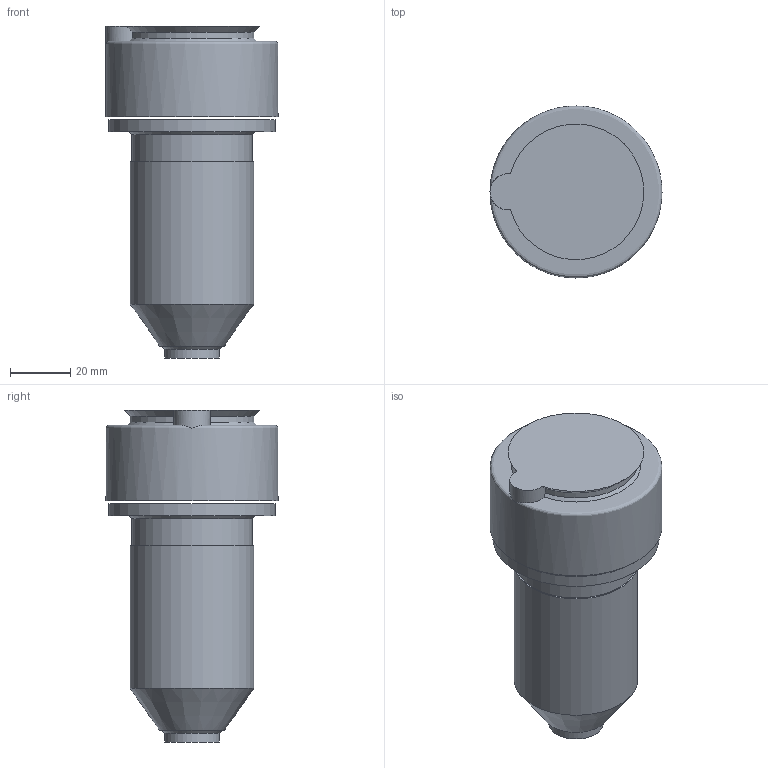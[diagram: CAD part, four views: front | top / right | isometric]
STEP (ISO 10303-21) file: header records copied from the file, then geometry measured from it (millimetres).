
FILE_DESCRIPTION(('STEP AP214'),'1');
FILE_NAME('SEDE IPS1000-C.stp','2018-06-13T12:18:43',(' '),(' '),'Spatial InterOp 3D',' ',' ');
FILE_SCHEMA(('AUTOMOTIVE_DESIGN { 1 0 10303 214 1 1 1 1 }'));
Length unit declared in the file: millimetre
Products named in the file (1): 1
Bounding box: 57 x 57 x 110 mm (x, y, z)
Volume: 167548.7 mm3; surface area: 24236 mm2
Topology: 2 solids, 2 shells, 19 faces, 34 edges, 22 vertices
Faces by surface type: plane 7, cylinder 6, cone 5, revolution 1
Full cylindrical faces by diameter (mm): 18 x1, 40 x1, 41 x1, 55 x1
Entity records: 669 total; most frequent: CARTESIAN_POINT 156, DIRECTION 77, ORIENTED_EDGE 50, AXIS2_PLACEMENT_3D 37, EDGE_LOOP 30, EDGE_CURVE 25, FACE_OUTER_BOUND 24, VERTEX_POINT 21
